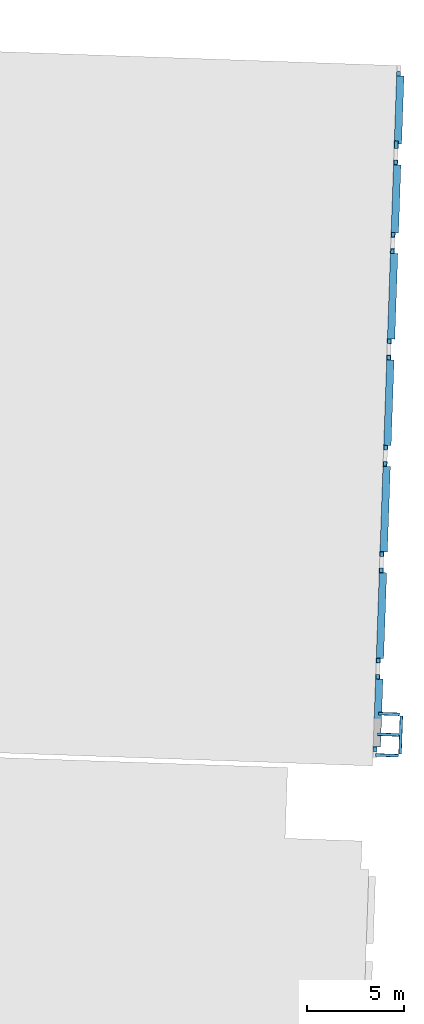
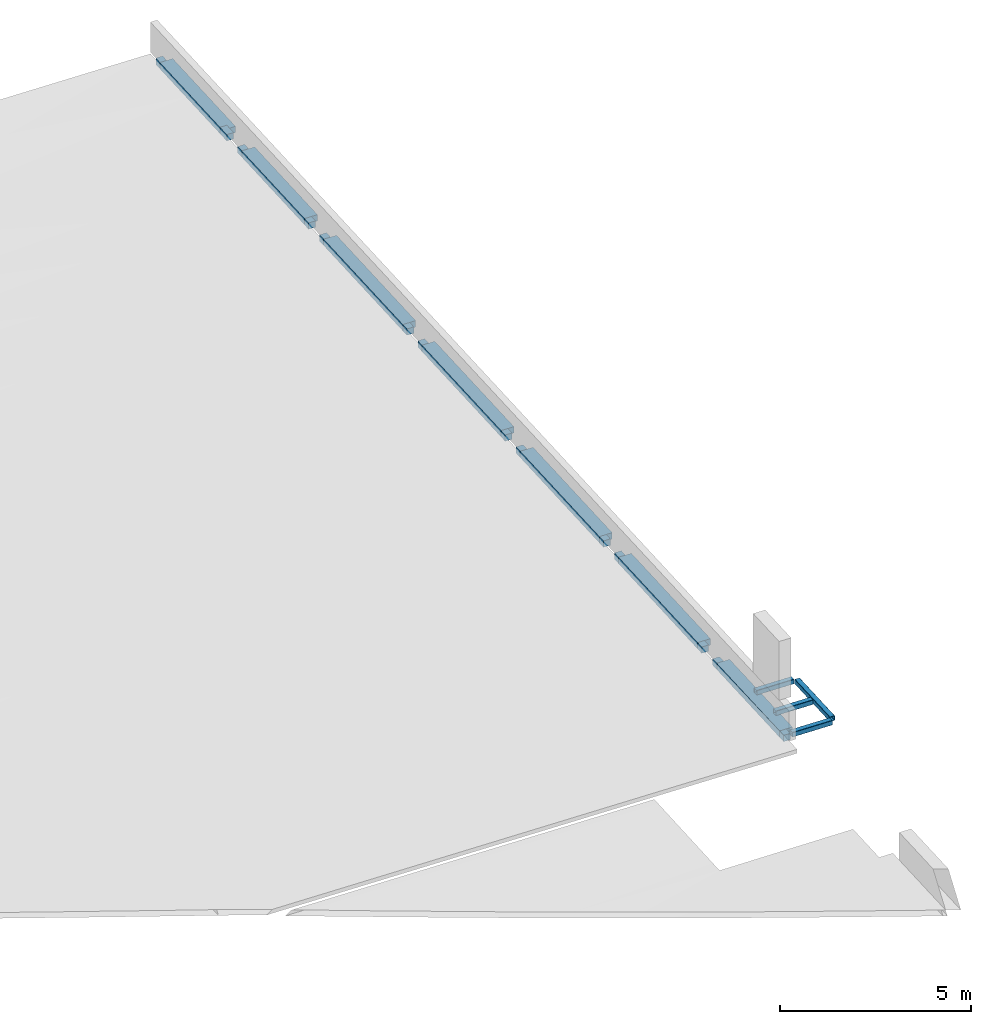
# One storey, part 1 of 4: 19 beams.
"""IFC2X3 building model written with IfcOpenShell, lengths in feet."""

import ifcopenshell
import ifcopenshell.guid

model = None  # the IFC model being written
_history = None  # IfcOwnerHistory: only IFC2X3 demands one
_inside = {}  # id of a spatial element -> (the spatial element, [elements in it])
_under = {}  # id of a project, library or spatial element -> (it, [spatial elements below it])
_declared = {}  # id of a project -> (the project, [libraries it declares])
_typed = {}  # id of a type object -> (the type object, [elements of that type])
_made_of = {}  # id of a material, layer set ... -> (it, [elements and type objects made of it])


def new_model(schema):
    """Start an empty IFC model of exactly this schema.

    Asked for "IFC4X3", IfcOpenShell would pick the latest addendum, in which some entities
    have other attributes; the version numbers below select the first issue.
    IFC2X3 requires an IfcOwnerHistory on every rooted entity: one is made here for all.
    """
    global model, _history
    if schema == "IFC4X3":
        model = ifcopenshell.file(schema_version=(4, 3, 0, 0))
    else:
        model = ifcopenshell.file(schema=schema)
    _inside.clear()
    _under.clear()
    _declared.clear()
    _typed.clear()
    _made_of.clear()
    _history = None
    if model.schema == "IFC2X3":
        org = make("IfcOrganization", Name="unknown")
        user = make(
            "IfcPersonAndOrganization",
            ThePerson=make("IfcPerson", FamilyName="unknown"),
            TheOrganization=org,
        )
        app = make(
            "IfcApplication",
            ApplicationDeveloper=org,
            Version="unknown",
            ApplicationFullName="unknown",
            ApplicationIdentifier="unknown",
        )
        _history = make(
            "IfcOwnerHistory",
            OwningUser=user,
            OwningApplication=app,
            ChangeAction="ADDED",
            CreationDate=0,
        )
    return model


def make(cls, **values):
    """One entity of the class cls with the attributes given. An attribute that is None is left unset."""
    return model.create_entity(
        cls, **{name: value for name, value in values.items() if value is not None}
    )


def entity(cls, *values):
    """Any entity or typed value of the class cls, its attributes in the order of the schema. None: left unset."""
    e = model.create_entity(cls)
    for i, value in enumerate(values):
        if value is not None:
            e[i] = value
    return e


def rooted(cls, **values):
    """An entity with a GlobalId (a new one), such as an element, a storey or a relation."""
    return make(cls, GlobalId=ifcopenshell.guid.new(), OwnerHistory=_history, **values)


def si_unit(unit_type, name, prefix=None):
    """IfcSIUnit, for example si_unit("LENGTHUNIT", "METRE", prefix="MILLI")."""
    return make("IfcSIUnit", UnitType=unit_type, Prefix=prefix, Name=name)


def converted_unit(unit_type, name, factor, base, dimensions=None, offset=None):
    """IfcConversionBasedUnit, such as the inch: factor (a typed value) times the base unit."""
    return make(
        "IfcConversionBasedUnit"
        if offset is None
        else "IfcConversionBasedUnitWithOffset",
        ConversionOffset=offset,
        Dimensions=None
        if dimensions is None
        else entity("IfcDimensionalExponents", *dimensions),
        UnitType=unit_type,
        Name=name,
        ConversionFactor=make(
            "IfcMeasureWithUnit", ValueComponent=factor, UnitComponent=base
        ),
    )


def derived_unit(unit_type, elements):
    """IfcDerivedUnit: a product of units, each with its exponent."""
    return make(
        "IfcDerivedUnit",
        Elements=[
            make("IfcDerivedUnitElement", Unit=unit, Exponent=power)
            for unit, power in elements
        ],
        UnitType=unit_type,
    )


def assignment(units):
    """IfcUnitAssignment: the units of a project."""
    return None if units is None else make("IfcUnitAssignment", Units=units)


def point(xyz):
    """IfcCartesianPoint."""
    return None if xyz is None else make("IfcCartesianPoint", Coordinates=xyz)


def direction(xyz):
    """IfcDirection."""
    return None if xyz is None else make("IfcDirection", DirectionRatios=xyz)


def frame(location, z_axis=None, x_axis=None):
    """IfcAxis2Placement3D, a coordinate frame: its origin and axes. An axis left out is left unset."""
    return make(
        "IfcAxis2Placement3D",
        Location=point(location),
        Axis=direction(z_axis),
        RefDirection=direction(x_axis),
    )


def frame_2d(location, x_axis=None):
    """IfcAxis2Placement2D, a coordinate frame in the plane: its origin and x axis."""
    return make(
        "IfcAxis2Placement2D", Location=point(location), RefDirection=direction(x_axis)
    )


def origin():
    """The frame at (0, 0, 0) with its axes left unset."""
    return frame((0.0, 0.0, 0.0))


def origin_2d_with_axis():
    """The frame at (0, 0) in the plane with the x axis (1, 0) written out."""
    return frame_2d((0.0, 0.0), x_axis=(1.0, 0.0))


def place(relative_to, where):
    """IfcLocalPlacement: puts the frame where relative to a parent placement (None: the world)."""
    return make(
        "IfcLocalPlacement", PlacementRelTo=relative_to, RelativePlacement=where
    )


def context(
    kind, dimensions, precision=None, world=None, true_north=None, identifier=None
):
    """IfcGeometricRepresentationContext, for example the 3D "Model" context."""
    return make(
        "IfcGeometricRepresentationContext",
        ContextIdentifier=identifier,
        ContextType=kind,
        CoordinateSpaceDimension=dimensions,
        Precision=precision,
        WorldCoordinateSystem=world,
        TrueNorth=true_north,
    )


def subcontext(parent, identifier, kind, view, scale=None):
    """IfcGeometricRepresentationSubContext, for example "Body" below "Model"."""
    return make(
        "IfcGeometricRepresentationSubContext",
        ContextIdentifier=identifier,
        ContextType=kind,
        ParentContext=parent,
        TargetScale=scale,
        TargetView=view,
    )


def project(units=None, contexts=None):
    """IfcProject with its units and contexts."""
    return rooted(
        "IfcProject",
        Name="project",
        RepresentationContexts=contexts,
        UnitsInContext=assignment(units),
    )


def spatial(cls, under=None, at=None, **own):
    """A site, building, storey or space (cls), placed at a placement, below another one or the project."""
    s = rooted(cls, ObjectPlacement=at, **own)
    if under is not None:
        _under.setdefault(under.id(), (under, []))[1].append(s)
    return s


def polyline(points):
    """IfcPolyline through the points."""
    return make("IfcPolyline", Points=[point(p) for p in points])


def circle_curve(where, radius):
    """IfcCircle in the frame where."""
    return make("IfcCircle", Position=where, Radius=radius)


def parameter(value):
    """IfcParameterValue: where a trimmed curve begins or ends, as a parameter of its basis curve."""
    return model.create_entity("IfcParameterValue", value)


def trimmed(basis, trim1, trim2, sense, master):
    """IfcTrimmedCurve: the piece of a basis curve between two trims."""
    return make(
        "IfcTrimmedCurve",
        BasisCurve=basis,
        Trim1=trim1,
        Trim2=trim2,
        SenseAgreement=sense,
        MasterRepresentation=master,
    )


def segment(curve, same_sense, transition):
    """IfcCompositeCurveSegment."""
    return make(
        "IfcCompositeCurveSegment",
        Transition=transition,
        SameSense=same_sense,
        ParentCurve=curve,
    )


def composite_curve(segments, self_intersect=None):
    """IfcCompositeCurve: segments joined end to end."""
    return make("IfcCompositeCurve", Segments=segments, SelfIntersect=self_intersect)


def profile(cls, at=None, kind="AREA", **sizes):
    """A parametric profile (cls). Its sizes go by their IFC names, for example OverallWidth=200.0."""
    return make(cls, ProfileType=kind, Position=at, **sizes)


def rectangle(**sizes):
    """IfcRectangleProfileDef."""
    return profile("IfcRectangleProfileDef", **sizes)


def outline(outer, holes=None, kind="AREA"):
    """IfcArbitraryClosedProfileDef: a profile drawn as a closed curve; with holes, ...WithVoids."""
    if holes is None:
        return make("IfcArbitraryClosedProfileDef", ProfileType=kind, OuterCurve=outer)
    return make(
        "IfcArbitraryProfileDefWithVoids",
        ProfileType=kind,
        OuterCurve=outer,
        InnerCurves=holes,
    )


def extrude(swept, where, along, depth):
    """IfcExtrudedAreaSolid: the profile swept, set in the frame where, extruded along a direction by depth."""
    return make(
        "IfcExtrudedAreaSolid",
        SweptArea=swept,
        Position=where,
        ExtrudedDirection=direction(along),
        Depth=depth,
    )


def faces_of(points, faces, orient=None, outer=None):
    """IfcFace entities. A face is a list of loops; a loop is a list of indices into points, from 0.

    orient and outer hold one flag for each loop. By default every Orientation is true, the
    first loop of a face is its IfcFaceOuterBound and the others are IfcFaceBound.
    """
    made = []
    for i, loops in enumerate(faces):
        bounds = []
        for j, loop in enumerate(loops):
            is_outer = j == 0 if outer is None else outer[i][j]
            bounds.append(
                make(
                    "IfcFaceOuterBound" if is_outer else "IfcFaceBound",
                    Bound=make("IfcPolyLoop", Polygon=[points[k] for k in loop]),
                    Orientation=True if orient is None else orient[i][j],
                )
            )
        made.append(make("IfcFace", Bounds=bounds))
    return made


def faceted_brep(points, faces, orient=None, outer=None, voids=None):
    """IfcFacetedBrep: a solid bounded by flat faces; with voids (closed shells), ...WithVoids."""
    shared = [point(p) for p in points]
    hull = make("IfcClosedShell", CfsFaces=faces_of(shared, faces, orient, outer))
    if voids is None:
        return make("IfcFacetedBrep", Outer=hull)
    return make(
        "IfcFacetedBrepWithVoids",
        Outer=hull,
        Voids=[
            make(cls, CfsFaces=faces_of(shared, fs, o, b)) for cls, fs, o, b in voids
        ],
    )


def shape(context_of_items, identifier, shape_type, items):
    """IfcShapeRepresentation: the items that make up one representation, for example the "Body"."""
    return make(
        "IfcShapeRepresentation",
        ContextOfItems=context_of_items,
        RepresentationIdentifier=identifier,
        RepresentationType=shape_type,
        Items=items,
    )


def material(Name=None, Category=None):
    """IfcMaterial."""
    return make("IfcMaterial", Name=Name, Category=Category)


def made_of(thing, what):
    """Note that an element or type object is made of a material, layer set ...; save() writes the relation."""
    if what is not None:
        _made_of.setdefault(what.id(), (what, []))[1].append(thing)
    return thing


def element(
    cls,
    number,
    at=None,
    inside=None,
    cuts=None,
    type_object=None,
    material=None,
    context=None,
    identifier="Body",
    shape_type=None,
    held_by="IfcProductDefinitionShape",
    body=None,
    shapes=None,
    **own,
):
    """One element of the class cls, such as IfcWall. Its Tag is "e" and its number.

    at: its placement. inside: the storey or other place that contains it. cuts: it is an
    opening in that element (IfcRelVoidsElement). A single representation is given by context,
    identifier, shape_type and body (its items); several are given by shapes. held_by: the class
    of the entity that holds the representations. save() writes the other relations.
    """
    e = rooted(cls, Tag="e%d" % number, ObjectPlacement=at, **own)
    if body is not None:
        shapes = [shape(context, identifier, shape_type, body)]
    if shapes is not None:
        e.Representation = make(held_by, Representations=shapes)
    if inside is not None:
        _inside.setdefault(inside.id(), (inside, []))[1].append(e)
    if cuts is not None:
        rooted(
            "IfcRelVoidsElement", RelatingBuildingElement=cuts, RelatedOpeningElement=e
        )
    if type_object is not None:
        _typed.setdefault(type_object.id(), (type_object, []))[1].append(e)
    return made_of(e, material)


def aggregate(whole, parts):
    """IfcRelAggregates: a whole, such as a stair, and the parts it consists of."""
    return rooted("IfcRelAggregates", RelatingObject=whole, RelatedObjects=parts)


def save(model, path):
    """Write the relations noted so far, then the file.

    IfcRelAggregates (storeys below a building ...), IfcRelContainedInSpatialStructure (elements
    in a storey), IfcRelDefinesByType, IfcRelAssociatesMaterial and IfcRelDeclares: one each for
    every whole, place, type object, material and project.
    """
    for whole, parts in _under.values():
        aggregate(whole, parts)
    for where, things in _inside.values():
        rooted(
            "IfcRelContainedInSpatialStructure",
            RelatedElements=things,
            RelatingStructure=where,
        )
    for kind, things in _typed.values():
        rooted("IfcRelDefinesByType", RelatedObjects=things, RelatingType=kind)
    for what, things in _made_of.values():
        rooted("IfcRelAssociatesMaterial", RelatedObjects=things, RelatingMaterial=what)
    for by, libraries in _declared.values():
        rooted("IfcRelDeclares", RelatingContext=by, RelatedDefinitions=libraries)
    model.write(path)


model = new_model("IFC2X3")

# Units and contexts
model_context = context("Model", 3, precision=0.0001, world=origin(), true_north=direction((0.999390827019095, 0.0348994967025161)))
body_context = subcontext(model_context, "Body", "Model", "MODEL_VIEW")
ifc_project = project(units=[converted_unit("LENGTHUNIT", "FOOT", entity("IfcRatioMeasure", 0.3048), si_unit("LENGTHUNIT", "METRE"), dimensions=[1, 0, 0, 0, 0, 0, 0]), converted_unit("AREAUNIT", "SQUARE FOOT", entity("IfcRatioMeasure", 0.09290304), si_unit("AREAUNIT", "SQUARE_METRE"), dimensions=[2, 0, 0, 0, 0, 0, 0]), converted_unit("VOLUMEUNIT", "CUBIC FOOT", entity("IfcRatioMeasure", 0.028316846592), si_unit("VOLUMEUNIT", "CUBIC_METRE"), dimensions=[3, 0, 0, 0, 0, 0, 0]), converted_unit("PLANEANGLEUNIT", "DEGREE", entity("IfcRatioMeasure", 0.0174532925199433), si_unit("PLANEANGLEUNIT", "RADIAN"), dimensions=[0, 0, 0, 0, 0, 0, 0]), si_unit("MASSUNIT", "GRAM", prefix="KILO"), si_unit("TIMEUNIT", "SECOND"), si_unit("FREQUENCYUNIT", "HERTZ"), si_unit("THERMODYNAMICTEMPERATUREUNIT", "DEGREE_CELSIUS"), derived_unit("THERMALTRANSMITTANCEUNIT", [(si_unit("MASSUNIT", "GRAM", prefix="KILO"), 1), (si_unit("THERMODYNAMICTEMPERATUREUNIT", "KELVIN"), -1), (si_unit("TIMEUNIT", "SECOND"), -3)]), derived_unit("VOLUMETRICFLOWRATEUNIT", [(si_unit("LENGTHUNIT", "METRE"), 3), (si_unit("TIMEUNIT", "SECOND"), -1)]), si_unit("ELECTRICCURRENTUNIT", "AMPERE"), si_unit("ELECTRICVOLTAGEUNIT", "VOLT"), si_unit("POWERUNIT", "WATT"), si_unit("FORCEUNIT", "NEWTON"), si_unit("ILLUMINANCEUNIT", "LUX"), si_unit("LUMINOUSFLUXUNIT", "LUMEN"), si_unit("LUMINOUSINTENSITYUNIT", "CANDELA"), derived_unit("USERDEFINED", [(si_unit("MASSUNIT", "GRAM", prefix="KILO"), -1), (si_unit("LENGTHUNIT", "METRE"), -2), (si_unit("TIMEUNIT", "SECOND"), 3), (si_unit("LUMINOUSFLUXUNIT", "LUMEN"), 1)]), derived_unit("LINEARVELOCITYUNIT", [(si_unit("LENGTHUNIT", "METRE"), 1), (si_unit("TIMEUNIT", "SECOND"), -1)]), si_unit("PRESSUREUNIT", "PASCAL"), derived_unit("USERDEFINED", [(si_unit("LENGTHUNIT", "METRE"), -2), (si_unit("MASSUNIT", "GRAM", prefix="KILO"), 1), (si_unit("TIMEUNIT", "SECOND"), -2)])], contexts=[model_context])

# Site, building, storey
site_placement = place(None, frame((892.518771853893, 322.38689265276, 0.00393700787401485), z_axis=(0.0, 0.0, 1.0), x_axis=(0.0348994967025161, 0.999390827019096, 0.0)))
site = spatial("IfcSite", under=ifc_project, at=site_placement, Name="Default", CompositionType="ELEMENT")
building_placement = place(site_placement, origin())
building = spatial("IfcBuilding", under=site, at=building_placement, CompositionType="ELEMENT")
storey_placement = place(building_placement, frame((0.0, 0.0, 587.0)))
storey = spatial("IfcBuildingStorey", under=building, at=storey_placement, Name="Existing Garage - 4th Level", CompositionType="ELEMENT", Elevation=587.0)

# Beams
ifc_material_1 = material(Name="Metal - Steel - ASTM A500 - Grade B - Rectangular and Square")
beam_1_placement = place(storey_placement, frame((113.343963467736, 231.847286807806, 0.666666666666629), z_axis=(0.0, 0.0, 1.0), x_axis=(-1.0, 0.0, 0.0)))
element("IfcBeam", 1, at=beam_1_placement, inside=storey, material=ifc_material_1, Name="05_HSS-Hollow Structural Section:HSS6x6x5/16", ObjectType="05_HSS-Hollow Structural Section:HSS6x6x5/16", context=body_context, shape_type="SweptSolid", body=[
    extrude(outline(composite_curve([segment(trimmed(circle_curve(frame_2d((-0.201500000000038, -0.20150000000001), x_axis=(1.0, 0.0)), 0.0485), [parameter(180.0)], [parameter(270.0)], True, "PARAMETER"), True, "CONTINUOUS"), segment(polyline([(-0.201500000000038, -0.25), (0.201499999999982, -0.25)]), True, "CONTINUOUS"), segment(trimmed(circle_curve(frame_2d((0.201499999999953, -0.20150000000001), x_axis=(1.0, 0.0)), 0.0485), [parameter(270.0)], [parameter(1.52666624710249e-13)], True, "PARAMETER"), True, "CONTINUOUS"), segment(polyline([(0.249999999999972, -0.20150000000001), (0.249999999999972, 0.20150000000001)]), True, "CONTINUOUS"), segment(trimmed(circle_curve(frame_2d((0.201499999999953, 0.20150000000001), x_axis=(1.0, 0.0)), 0.0485), [parameter(360.0)], [parameter(89.9999999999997)], True, "PARAMETER"), True, "CONTINUOUS"), segment(polyline([(0.201499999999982, 0.25), (-0.201500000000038, 0.25)]), True, "CONTINUOUS"), segment(trimmed(circle_curve(frame_2d((-0.201500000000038, 0.20150000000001), x_axis=(1.0, 0.0)), 0.0485), [parameter(90.0000000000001)], [parameter(180.0)], True, "PARAMETER"), True, "CONTINUOUS"), segment(polyline([(-0.250000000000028, 0.20150000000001), (-0.250000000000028, -0.20150000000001)]), True, "CONTINUOUS")], self_intersect=False), holes=[composite_curve([segment(polyline([(0.201499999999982, -0.225749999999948), (-0.201500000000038, -0.225749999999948)]), True, "CONTINUOUS"), segment(trimmed(circle_curve(frame_2d((-0.201500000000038, -0.20150000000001), x_axis=(1.0, 0.0)), 0.02425), [parameter(180.0)], [parameter(270.0)], True, "PARAMETER"), False, "CONTINUOUS"), segment(polyline([(-0.225750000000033, -0.20150000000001), (-0.225750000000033, 0.20150000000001)]), True, "CONTINUOUS"), segment(trimmed(circle_curve(frame_2d((-0.201500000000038, 0.20150000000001), x_axis=(1.0, 0.0)), 0.02425), [parameter(90.0000000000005)], [parameter(180.0)], True, "PARAMETER"), False, "CONTINUOUS"), segment(polyline([(-0.201500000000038, 0.225750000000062), (0.201499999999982, 0.225750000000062)]), True, "CONTINUOUS"), segment(trimmed(circle_curve(frame_2d((0.201499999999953, 0.20150000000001), x_axis=(1.0, 0.0)), 0.02425), [parameter(0.0)], [parameter(90.0000000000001)], True, "PARAMETER"), False, "CONTINUOUS"), segment(polyline([(0.225749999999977, 0.20150000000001), (0.225749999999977, -0.20150000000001)]), True, "CONTINUOUS"), segment(trimmed(circle_curve(frame_2d((0.201499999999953, -0.20150000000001), x_axis=(1.0, 0.0)), 0.02425), [parameter(270.0)], [parameter(4.07110999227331e-13)], True, "PARAMETER"), False, "CONTINUOUS")], self_intersect=False)]), frame((0.291666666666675, 0.0, -0.25), z_axis=(1.0, 0.0, 0.0), x_axis=(0.0, -1.0, 0.0)), (0.0, 0.0, 1.0), 6.41667039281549),
])
ifc_material_2 = material(Name="Concrete - Cast-in-Place Concrete")
beam_2_placement = place(storey_placement, frame((105.927293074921, 236.097286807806, 0.0)))
element("IfcBeam", 2, at=beam_2_placement, inside=storey, material=ifc_material_2, Name="Concrete-Rectangular Beam:8\" x 8\"w", ObjectType="Concrete-Rectangular Beam:8\" x 8\"w", context=body_context, shape_type="SweptSolid", body=[
    extrude(rectangle(XDim=0.666666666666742, YDim=0.666666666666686, at=origin_2d_with_axis()), frame((1.0, 0.0, -0.333333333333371), z_axis=(1.0, 0.0, 0.0), x_axis=(0.0, 0.0, -1.0)), (0.0, 0.0, 1.0), 0.7500000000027),
])
beam_3_placement = place(storey_placement, frame((107.677293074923, 235.80562014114, 0.0)))
element("IfcBeam", 3, at=beam_3_placement, inside=storey, material=ifc_material_2, Name="Concrete-Rectangular Beam:8\" x 15\"w", ObjectType="Concrete-Rectangular Beam:8\" x 15\"w", context=body_context, shape_type="SweptSolid", body=[
    extrude(rectangle(XDim=0.666666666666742, YDim=1.25, at=frame_2d((0.0, 5.6843418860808e-14), x_axis=(1.0, 0.0))), frame((0.0, 0.0, -0.333333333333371), z_axis=(1.0, 0.0, 0.0), x_axis=(0.0, 0.0, -1.0)), (0.0, 0.0, 1.0), 11.4999999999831),
])
beam_4_placement = place(storey_placement, frame((119.177293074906, 236.097286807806, 0.0)))
element("IfcBeam", 4, at=beam_4_placement, inside=storey, material=ifc_material_2, Name="Concrete-Rectangular Beam:8\" x 8\"w", ObjectType="Concrete-Rectangular Beam:8\" x 8\"w", context=body_context, shape_type="SweptSolid", body=[
    extrude(rectangle(XDim=0.666666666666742, YDim=0.666666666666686, at=frame_2d((0.0, 2.8421709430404e-14), x_axis=(1.0, 0.0))), frame((2.74999999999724, 0.0, -0.333333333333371), z_axis=(1.0, 0.0, 0.0), x_axis=(0.0, 0.0, -1.0)), (0.0, 0.0, 1.0), 0.7500000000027),
    extrude(rectangle(XDim=0.666666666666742, YDim=0.666666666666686, at=frame_2d((-2.8421709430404e-14, 0.0), x_axis=(0.0, 1.0))), frame((0.0, 0.0, -0.333333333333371), z_axis=(1.0, 0.0, 0.0), x_axis=(0.0, -1.0, 0.0)), (0.0, 0.0, 1.0), 0.749999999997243),
])
beam_5_placement = place(storey_placement, frame((122.677293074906, 235.80562014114, 0.0)))
element("IfcBeam", 5, at=beam_5_placement, inside=storey, material=ifc_material_2, Name="Concrete-Rectangular Beam:8\" x 15\"w", ObjectType="Concrete-Rectangular Beam:8\" x 15\"w", context=body_context, shape_type="SweptSolid", body=[
    extrude(rectangle(XDim=0.666666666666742, YDim=1.25, at=frame_2d((0.0, 5.6843418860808e-14), x_axis=(1.0, 0.0))), frame((0.0, 0.0, -0.333333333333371), z_axis=(1.0, 0.0, 0.0), x_axis=(0.0, 0.0, -1.0)), (0.0, 0.0, 1.0), 14.5000000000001),
])
beam_6_placement = place(storey_placement, frame((137.177293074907, 236.097286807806, 0.0)))
element("IfcBeam", 6, at=beam_6_placement, inside=storey, material=ifc_material_2, Name="Concrete-Rectangular Beam:8\" x 8\"w", ObjectType="Concrete-Rectangular Beam:8\" x 8\"w", context=body_context, shape_type="SweptSolid", body=[
    extrude(rectangle(XDim=0.666666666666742, YDim=0.666666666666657, at=frame_2d((0.0, -1.4210854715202e-14), x_axis=(1.0, 0.0))), frame((2.7499999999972, 0.0, -0.333333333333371), z_axis=(1.0, 0.0, 0.0), x_axis=(0.0, 0.0, -1.0)), (0.0, 0.0, 1.0), 0.750000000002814),
    extrude(rectangle(XDim=0.666666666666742, YDim=0.666666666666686, at=frame_2d((0.0, 0.0), x_axis=(0.0, 1.0))), frame((0.0, 0.0, -0.333333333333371), z_axis=(1.0, 0.0, 0.0), x_axis=(0.0, -1.0, 0.0)), (0.0, 0.0, 1.0), 0.749999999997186),
])
beam_7_placement = place(storey_placement, frame((140.677293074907, 235.80562014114, 0.0)))
element("IfcBeam", 7, at=beam_7_placement, inside=storey, material=ifc_material_2, Name="Concrete-Rectangular Beam:8\" x 15\"w", ObjectType="Concrete-Rectangular Beam:8\" x 15\"w", context=body_context, shape_type="SweptSolid", body=[
    extrude(rectangle(XDim=0.666666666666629, YDim=1.25, at=frame_2d((0.0, 7.105427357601e-14), x_axis=(1.0, 0.0))), frame((0.0, 0.0, -0.333333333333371), z_axis=(1.0, 0.0, 0.0), x_axis=(0.0, 0.0, -1.0)), (0.0, 0.0, 1.0), 14.5),
])
beam_8_placement = place(storey_placement, frame((154.510626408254, 236.097286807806, 0.0)))
element("IfcBeam", 8, at=beam_8_placement, inside=storey, material=ifc_material_2, Name="Concrete-Rectangular Beam:8\" x 8\"w", ObjectType="Concrete-Rectangular Beam:8\" x 8\"w", context=body_context, shape_type="SweptSolid", body=[
    extrude(rectangle(XDim=0.666666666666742, YDim=0.666666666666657, at=frame_2d((0.0, 1.4210854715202e-14), x_axis=(1.0, 0.0))), frame((3.41666666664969, 0.0, -0.333333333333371), z_axis=(1.0, 0.0, 0.0), x_axis=(0.0, 0.0, -1.0)), (0.0, 0.0, 1.0), 0.750000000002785),
    extrude(rectangle(XDim=0.666666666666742, YDim=0.666666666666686, at=frame_2d((0.0, -2.8421709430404e-14), x_axis=(1.0, 0.0))), frame((0.666666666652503, 0.0, -0.333333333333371), z_axis=(1.0, 0.0, 0.0), x_axis=(0.0, 0.0, -1.0)), (0.0, 0.0, 1.0), 0.749999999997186),
])
beam_9_placement = place(storey_placement, frame((158.677293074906, 235.805620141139, 0.0)))
element("IfcBeam", 9, at=beam_9_placement, inside=storey, material=ifc_material_2, Name="Concrete-Rectangular Beam:8\" x 15\"w", ObjectType="Concrete-Rectangular Beam:8\" x 15\"w", context=body_context, shape_type="SweptSolid", body=[
    extrude(rectangle(XDim=0.666666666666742, YDim=1.25000000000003, at=frame_2d((0.0, 4.2632564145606e-14), x_axis=(1.0, 0.0))), frame((0.0, 0.0, -0.333333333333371), z_axis=(1.0, 0.0, 0.0), x_axis=(0.0, 0.0, -1.0)), (0.0, 0.0, 1.0), 14.5),
])
beam_10_placement = place(storey_placement, frame((173.177293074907, 236.097286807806, 0.0)))
element("IfcBeam", 10, at=beam_10_placement, inside=storey, material=ifc_material_2, Name="Concrete-Rectangular Beam:8\" x 8\"w", ObjectType="Concrete-Rectangular Beam:8\" x 8\"w", context=body_context, shape_type="SweptSolid", body=[
    extrude(rectangle(XDim=0.666666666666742, YDim=0.666666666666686, at=origin_2d_with_axis()), frame((2.74999999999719, 0.0, -0.333333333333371), z_axis=(1.0, 0.0, 0.0), x_axis=(0.0, 0.0, -1.0)), (0.0, 0.0, 1.0), 0.750000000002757),
    extrude(rectangle(XDim=0.666666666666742, YDim=0.666666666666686, at=frame_2d((0.0, 0.0), x_axis=(0.0, 1.0))), frame((0.0, 0.0, -0.333333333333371), z_axis=(1.0, 0.0, 0.0), x_axis=(0.0, -1.0, 0.0)), (0.0, 0.0, 1.0), 0.749999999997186),
])
beam_11_placement = place(storey_placement, frame((176.677293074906, 235.805620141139, 0.0)))
element("IfcBeam", 11, at=beam_11_placement, inside=storey, material=ifc_material_2, Name="Concrete-Rectangular Beam:8\" x 15\"w", ObjectType="Concrete-Rectangular Beam:8\" x 15\"w", context=body_context, shape_type="SweptSolid", body=[
    extrude(rectangle(XDim=0.666666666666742, YDim=1.25000000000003, at=frame_2d((0.0, 7.105427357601e-14), x_axis=(1.0, 0.0))), frame((0.0, 0.0, -0.333333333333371), z_axis=(1.0, 0.0, 0.0), x_axis=(0.0, 0.0, -1.0)), (0.0, 0.0, 1.0), 14.5),
])
beam_12_placement = place(storey_placement, frame((191.177293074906, 236.097286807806, 0.0)))
element("IfcBeam", 12, at=beam_12_placement, inside=storey, material=ifc_material_2, Name="Concrete-Rectangular Beam:8\" x 8\"w", ObjectType="Concrete-Rectangular Beam:8\" x 8\"w", context=body_context, shape_type="SweptSolid", body=[
    extrude(rectangle(XDim=0.666666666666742, YDim=0.666666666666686, at=origin_2d_with_axis()), frame((2.7499999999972, 0.0, -0.333333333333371), z_axis=(1.0, 0.0, 0.0), x_axis=(0.0, 0.0, -1.0)), (0.0, 0.0, 1.0), 0.750000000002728),
    extrude(rectangle(XDim=0.666666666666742, YDim=0.666666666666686, at=frame_2d((0.0, 0.0), x_axis=(0.0, 1.0))), frame((0.0, 0.0, -0.333333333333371), z_axis=(1.0, 0.0, 0.0), x_axis=(0.0, -1.0, 0.0)), (0.0, 0.0, 1.0), 0.749999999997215),
])
beam_13_placement = place(storey_placement, frame((194.677293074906, 235.805620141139, 0.0)))
element("IfcBeam", 13, at=beam_13_placement, inside=storey, material=ifc_material_2, Name="Concrete-Rectangular Beam:8\" x 15\"w", ObjectType="Concrete-Rectangular Beam:8\" x 15\"w", context=body_context, shape_type="SweptSolid", body=[
    extrude(rectangle(XDim=0.666666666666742, YDim=1.25, at=frame_2d((0.0, 2.8421709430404e-14), x_axis=(1.0, 0.0))), frame((0.0, 0.0, -0.333333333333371), z_axis=(1.0, 0.0, 0.0), x_axis=(0.0, 0.0, -1.0)), (0.0, 0.0, 1.0), 11.4999999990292),
])
beam_14_placement = place(storey_placement, frame((206.177293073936, 236.097286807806, 0.0)))
element("IfcBeam", 14, at=beam_14_placement, inside=storey, material=ifc_material_2, Name="Concrete-Rectangular Beam:8\" x 8\"w", ObjectType="Concrete-Rectangular Beam:8\" x 8\"w", context=body_context, shape_type="SweptSolid", body=[
    extrude(rectangle(XDim=0.666666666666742, YDim=0.666666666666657, at=frame_2d((0.0, -1.4210854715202e-14), x_axis=(1.0, 0.0))), frame((2.74999999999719, 0.0, -0.333333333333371), z_axis=(1.0, 0.0, 0.0), x_axis=(0.0, 0.0, -1.0)), (0.0, 0.0, 1.0), 1.2500000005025),
    extrude(rectangle(XDim=0.666666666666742, YDim=0.666666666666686, at=frame_2d((0.0, 0.0), x_axis=(0.0, 1.0))), frame((0.0, 0.0, -0.333333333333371), z_axis=(1.0, 0.0, 0.0), x_axis=(0.0, -1.0, 0.0)), (0.0, 0.0, 1.0), 0.749999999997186),
])
beam_15_placement = place(storey_placement, frame((209.677293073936, 235.180620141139, -0.666666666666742)))
element("IfcBeam", 15, at=beam_15_placement, inside=storey, material=ifc_material_2, Name="Concrete-Rectangular Beam:8\" x 15\"w", ObjectType="Concrete-Rectangular Beam:8\" x 15\"w", context=body_context, shape_type="Brep", body=[
    faceted_brep([(0.0, 0.0, 0.0), (0.0, 0.0, 0.666666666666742), (0.0, 0.583333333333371, 0.666666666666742), (0.0, 0.5833333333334, 0.0), (11.4999999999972, 0.0, 0.666666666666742), (11.4999999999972, 0.583333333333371, 0.666666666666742), (11.4999999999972, 1.25000000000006, 0.666666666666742), (0.500000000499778, 1.25000000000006, 0.666666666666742), (0.50000000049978, 0.583333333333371, 0.666666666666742), (11.4999999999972, 0.0, 0.0), (0.50000000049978, 0.583333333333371, 0.0), (0.500000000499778, 1.25000000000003, 0.0), (11.4999999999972, 1.25000000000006, 0.0), (11.4999999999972, 0.583333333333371, 0.0)], [[[0, 1, 2, 3]], [[1, 4, 5, 6, 7, 8, 2]], [[1, 0, 9, 4]], [[9, 0, 3, 10, 11, 12, 13]], [[6, 12, 11, 7]], [[10, 8, 7, 11]], [[8, 10, 3, 2]], [[6, 5, 4, 9, 13, 12]]]),
])
beam_16_placement = place(storey_placement, frame((221.177293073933, 236.097286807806, 0.0)))
element("IfcBeam", 16, at=beam_16_placement, inside=storey, material=ifc_material_2, Name="Concrete-Rectangular Beam:8\" x 8\"w", ObjectType="Concrete-Rectangular Beam:8\" x 8\"w", context=body_context, shape_type="SweptSolid", body=[
    extrude(rectangle(XDim=0.666666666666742, YDim=0.666666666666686, at=origin_2d_with_axis()), frame((0.0, 0.0, -0.333333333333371), z_axis=(1.0, 0.0, 0.0), x_axis=(0.0, 0.0, -1.0)), (0.0, 0.0, 1.0), 0.750000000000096),
])
beam_17_placement = place(storey_placement, frame((106.343959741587, 231.847286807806, 0.666666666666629), z_axis=(0.0, 0.0, 1.0), x_axis=(0.0, 1.0, 0.0)))
element("IfcBeam", 17, at=beam_17_placement, inside=storey, material=ifc_material_1, Name="05_HSS-Hollow Structural Section:HSS6x6x5/16", ObjectType="05_HSS-Hollow Structural Section:HSS6x6x5/16", context=body_context, shape_type="SweptSolid", body=[
    extrude(outline(composite_curve([segment(trimmed(circle_curve(frame_2d((-0.20150000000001, -0.20150000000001), x_axis=(1.0, 0.0)), 0.0485), [parameter(180.0)], [parameter(270.0)], True, "PARAMETER"), True, "CONTINUOUS"), segment(polyline([(-0.20150000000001, -0.25), (0.201499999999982, -0.25)]), True, "CONTINUOUS"), segment(trimmed(circle_curve(frame_2d((0.201499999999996, -0.20150000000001), x_axis=(1.0, 0.0)), 0.0485), [parameter(270.0)], [parameter(1.52666624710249e-13)], True, "PARAMETER"), True, "CONTINUOUS"), segment(polyline([(0.249999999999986, -0.20150000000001), (0.249999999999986, 0.20150000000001)]), True, "CONTINUOUS"), segment(trimmed(circle_curve(frame_2d((0.201499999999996, 0.20150000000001), x_axis=(1.0, 0.0)), 0.0485), [parameter(360.0)], [parameter(89.9999999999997)], True, "PARAMETER"), True, "CONTINUOUS"), segment(polyline([(0.201499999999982, 0.25), (-0.20150000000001, 0.25)]), True, "CONTINUOUS"), segment(trimmed(circle_curve(frame_2d((-0.20150000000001, 0.20150000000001), x_axis=(1.0, 0.0)), 0.0485), [parameter(90.0000000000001)], [parameter(180.0)], True, "PARAMETER"), True, "CONTINUOUS"), segment(polyline([(-0.250000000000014, 0.20150000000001), (-0.250000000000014, -0.20150000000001)]), True, "CONTINUOUS")], self_intersect=False), holes=[composite_curve([segment(polyline([(0.201499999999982, -0.225749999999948), (-0.20150000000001, -0.225749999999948)]), True, "CONTINUOUS"), segment(trimmed(circle_curve(frame_2d((-0.20150000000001, -0.20150000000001), x_axis=(1.0, 0.0)), 0.02425), [parameter(180.0)], [parameter(270.0)], True, "PARAMETER"), False, "CONTINUOUS"), segment(polyline([(-0.225750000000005, -0.20150000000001), (-0.225750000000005, 0.20150000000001)]), True, "CONTINUOUS"), segment(trimmed(circle_curve(frame_2d((-0.20150000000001, 0.20150000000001), x_axis=(1.0, 0.0)), 0.02425), [parameter(90.0000000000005)], [parameter(180.0)], True, "PARAMETER"), False, "CONTINUOUS"), segment(polyline([(-0.20150000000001, 0.225750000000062), (0.201499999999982, 0.225750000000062)]), True, "CONTINUOUS"), segment(trimmed(circle_curve(frame_2d((0.201499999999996, 0.20150000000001), x_axis=(1.0, 0.0)), 0.02425), [parameter(0.0)], [parameter(90.0000000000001)], True, "PARAMETER"), False, "CONTINUOUS"), segment(polyline([(0.225749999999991, 0.20150000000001), (0.225749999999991, -0.20150000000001)]), True, "CONTINUOUS"), segment(trimmed(circle_curve(frame_2d((0.201499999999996, -0.20150000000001), x_axis=(1.0, 0.0)), 0.02425), [parameter(270.0)], [parameter(4.07110999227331e-13)], True, "PARAMETER"), False, "CONTINUOUS")], self_intersect=False)]), frame((0.291666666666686, 0.0, -0.25), z_axis=(1.0, 0.0, 0.0), x_axis=(0.0, -1.0, 0.0)), (0.0, 0.0, 1.0), 3.86771738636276),
])
beam_18_placement = place(storey_placement, frame((113.343963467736, 231.847286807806, 0.666666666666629), z_axis=(0.0, 0.0, 1.0), x_axis=(0.0, 1.0, 0.0)))
element("IfcBeam", 18, at=beam_18_placement, inside=storey, material=ifc_material_1, Name="05_HSS-Hollow Structural Section:HSS6x6x5/16", ObjectType="05_HSS-Hollow Structural Section:HSS6x6x5/16", context=body_context, shape_type="SweptSolid", body=[
    extrude(outline(composite_curve([segment(trimmed(circle_curve(frame_2d((-0.201499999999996, -0.20150000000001), x_axis=(1.0, 0.0)), 0.0485), [parameter(180.0)], [parameter(270.0)], True, "PARAMETER"), True, "CONTINUOUS"), segment(polyline([(-0.201499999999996, -0.25), (0.201499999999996, -0.25)]), True, "CONTINUOUS"), segment(trimmed(circle_curve(frame_2d((0.20150000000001, -0.20150000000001), x_axis=(1.0, 0.0)), 0.0485), [parameter(270.0)], [parameter(1.52666624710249e-13)], True, "PARAMETER"), True, "CONTINUOUS"), segment(polyline([(0.25, -0.20150000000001), (0.25, 0.20150000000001)]), True, "CONTINUOUS"), segment(trimmed(circle_curve(frame_2d((0.20150000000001, 0.20150000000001), x_axis=(1.0, 0.0)), 0.0485), [parameter(360.0)], [parameter(89.9999999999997)], True, "PARAMETER"), True, "CONTINUOUS"), segment(polyline([(0.201499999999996, 0.25), (-0.201499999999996, 0.25)]), True, "CONTINUOUS"), segment(trimmed(circle_curve(frame_2d((-0.201499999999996, 0.20150000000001), x_axis=(1.0, 0.0)), 0.0485), [parameter(90.0000000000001)], [parameter(180.0)], True, "PARAMETER"), True, "CONTINUOUS"), segment(polyline([(-0.25, 0.20150000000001), (-0.25, -0.20150000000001)]), True, "CONTINUOUS")], self_intersect=False), holes=[composite_curve([segment(polyline([(0.201499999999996, -0.225749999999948), (-0.201499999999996, -0.225749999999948)]), True, "CONTINUOUS"), segment(trimmed(circle_curve(frame_2d((-0.201499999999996, -0.20150000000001), x_axis=(1.0, 0.0)), 0.02425), [parameter(180.0)], [parameter(270.0)], True, "PARAMETER"), False, "CONTINUOUS"), segment(polyline([(-0.225749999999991, -0.20150000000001), (-0.225749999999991, 0.20150000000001)]), True, "CONTINUOUS"), segment(trimmed(circle_curve(frame_2d((-0.201499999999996, 0.20150000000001), x_axis=(1.0, 0.0)), 0.02425), [parameter(90.0000000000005)], [parameter(180.0)], True, "PARAMETER"), False, "CONTINUOUS"), segment(polyline([(-0.201499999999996, 0.225750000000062), (0.201499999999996, 0.225750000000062)]), True, "CONTINUOUS"), segment(trimmed(circle_curve(frame_2d((0.20150000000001, 0.20150000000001), x_axis=(1.0, 0.0)), 0.02425), [parameter(0.0)], [parameter(90.0000000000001)], True, "PARAMETER"), False, "CONTINUOUS"), segment(polyline([(0.225750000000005, 0.20150000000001), (0.225750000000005, -0.20150000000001)]), True, "CONTINUOUS"), segment(trimmed(circle_curve(frame_2d((0.20150000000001, -0.20150000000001), x_axis=(1.0, 0.0)), 0.02425), [parameter(270.0)], [parameter(4.07110999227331e-13)], True, "PARAMETER"), False, "CONTINUOUS")], self_intersect=False)]), frame((0.291666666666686, 0.0, -0.25), z_axis=(1.0, 0.0, 0.0), x_axis=(0.0, -1.0, 0.0)), (0.0, 0.0, 1.0), 3.61954250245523),
])
beam_19_placement = place(storey_placement, frame((109.843961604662, 231.847286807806, 0.666666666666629), z_axis=(0.0, 0.0, 1.0), x_axis=(0.0, 1.0, 0.0)))
element("IfcBeam", 19, at=beam_19_placement, inside=storey, material=ifc_material_1, Name="05_HSS-Hollow Structural Section:HSS6x6x5/16", ObjectType="05_HSS-Hollow Structural Section:HSS6x6x5/16", context=body_context, shape_type="SweptSolid", body=[
    extrude(outline(composite_curve([segment(trimmed(circle_curve(frame_2d((-0.201499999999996, -0.20150000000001), x_axis=(1.0, 0.0)), 0.0485), [parameter(180.0)], [parameter(270.0)], True, "PARAMETER"), True, "CONTINUOUS"), segment(polyline([(-0.201499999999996, -0.25), (0.201499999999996, -0.25)]), True, "CONTINUOUS"), segment(trimmed(circle_curve(frame_2d((0.20150000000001, -0.20150000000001), x_axis=(1.0, 0.0)), 0.0485), [parameter(270.0)], [parameter(1.52666624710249e-13)], True, "PARAMETER"), True, "CONTINUOUS"), segment(polyline([(0.25, -0.20150000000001), (0.25, 0.20150000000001)]), True, "CONTINUOUS"), segment(trimmed(circle_curve(frame_2d((0.20150000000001, 0.20150000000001), x_axis=(1.0, 0.0)), 0.0485), [parameter(360.0)], [parameter(89.9999999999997)], True, "PARAMETER"), True, "CONTINUOUS"), segment(polyline([(0.201499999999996, 0.25), (-0.201499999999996, 0.25)]), True, "CONTINUOUS"), segment(trimmed(circle_curve(frame_2d((-0.201499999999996, 0.20150000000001), x_axis=(1.0, 0.0)), 0.0485), [parameter(90.0000000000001)], [parameter(180.0)], True, "PARAMETER"), True, "CONTINUOUS"), segment(polyline([(-0.25, 0.20150000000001), (-0.25, -0.20150000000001)]), True, "CONTINUOUS")], self_intersect=False), holes=[composite_curve([segment(polyline([(0.201499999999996, -0.225749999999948), (-0.201499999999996, -0.225749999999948)]), True, "CONTINUOUS"), segment(trimmed(circle_curve(frame_2d((-0.201499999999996, -0.20150000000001), x_axis=(1.0, 0.0)), 0.02425), [parameter(180.0)], [parameter(270.0)], True, "PARAMETER"), False, "CONTINUOUS"), segment(polyline([(-0.225749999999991, -0.20150000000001), (-0.225749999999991, 0.20150000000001)]), True, "CONTINUOUS"), segment(trimmed(circle_curve(frame_2d((-0.201499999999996, 0.20150000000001), x_axis=(1.0, 0.0)), 0.02425), [parameter(90.0000000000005)], [parameter(180.0)], True, "PARAMETER"), False, "CONTINUOUS"), segment(polyline([(-0.201499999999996, 0.225750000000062), (0.201499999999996, 0.225750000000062)]), True, "CONTINUOUS"), segment(trimmed(circle_curve(frame_2d((0.20150000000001, 0.20150000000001), x_axis=(1.0, 0.0)), 0.02425), [parameter(0.0)], [parameter(90.0000000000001)], True, "PARAMETER"), False, "CONTINUOUS"), segment(polyline([(0.225750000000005, 0.20150000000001), (0.225750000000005, -0.20150000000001)]), True, "CONTINUOUS"), segment(trimmed(circle_curve(frame_2d((0.20150000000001, -0.20150000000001), x_axis=(1.0, 0.0)), 0.02425), [parameter(270.0)], [parameter(4.07110999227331e-13)], True, "PARAMETER"), False, "CONTINUOUS")], self_intersect=False)]), frame((0.291666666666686, 0.0, -0.25), z_axis=(1.0, 0.0, 0.0), x_axis=(0.0, -1.0, 0.0)), (0.0, 0.0, 1.0), 3.61954250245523),
])

save(model, "model.ifc")
